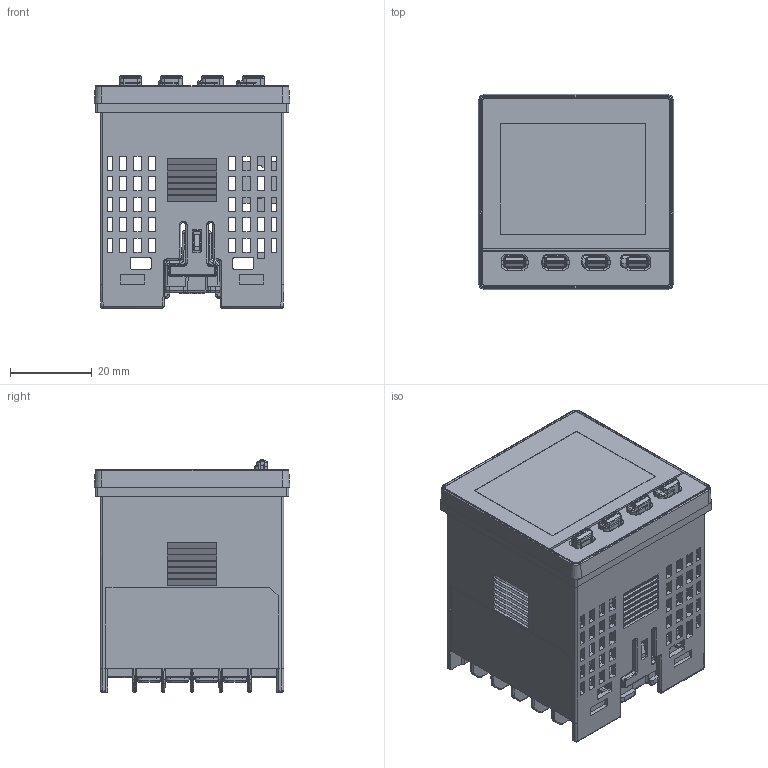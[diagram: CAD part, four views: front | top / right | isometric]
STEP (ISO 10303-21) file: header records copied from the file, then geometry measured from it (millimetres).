
FILE_DESCRIPTION((''),'2;1');
FILE_NAME('C62_ME_SET_ASM','2018-05-23T',('Harry'),(''),'CREO PARAMETRIC BY PTC INC, 2014350','CREO PARAMETRIC BY PTC INC, 2014350','');
FILE_SCHEMA(('AP203_CONFIGURATION_CONTROLLED_3D_DESIGN_OF_MECHANICAL_PARTS_AND_ASSEMBLIES_MIM_LF { 1 0 10303 403 2 1 2 }'));
Products named in the file (12): C62_COVER_FRONT; C62_FRONT_DECO; C62_HOUSING; C62_150616_GLASS; C62_LCD_SET_ASM; C62_PCB_CNTL_SET_ASM; C62_PCB_SET_ASM; C62_KEYTOP; C62_KEY_RUBBER; C62_O-RING_OUT; ME_C62_COVER_OPT; C62_ME_SET_ASM
Assembly tree (14 placements, depth 5):
  C62_ME_SET_ASM
    C62_COVER_FRONT
    C62_FRONT_DECO
    C62_HOUSING
    C62_PCB_SET_ASM
      C62_PCB_CNTL_SET_ASM
        C62_LCD_SET_ASM
          C62_150616_GLASS
    C62_KEYTOP  x4
    C62_KEY_RUBBER
    C62_O-RING_OUT
    ME_C62_COVER_OPT
Bounding box: 47.8 x 47.8 x 56.7 mm (x, y, z)
Volume: 21511 mm3; surface area: 42170.8 mm2
Topology: 11 solids, 11 shells, 2959 faces, 8710 edges, 5850 vertices
Faces by surface type: plane 1854, cylinder 720, bspline 218, torus 82, cone 80, sphere 4, extrusion 1
Entity records: 126434 total; most frequent: CARTESIAN_POINT 29282, ORIENTED_EDGE 15230, DIRECTION 14352, EDGE_CURVE 7615, VECTOR 6600, LINE 6599, PRESENTATION_STYLE_ASSIGNMENT 6564, STYLED_ITEM 6555
